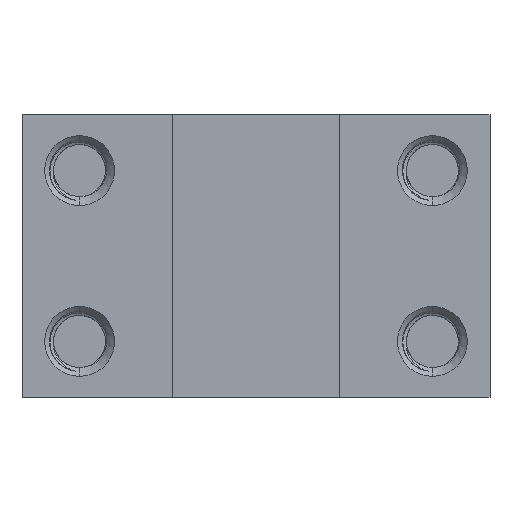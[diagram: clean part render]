
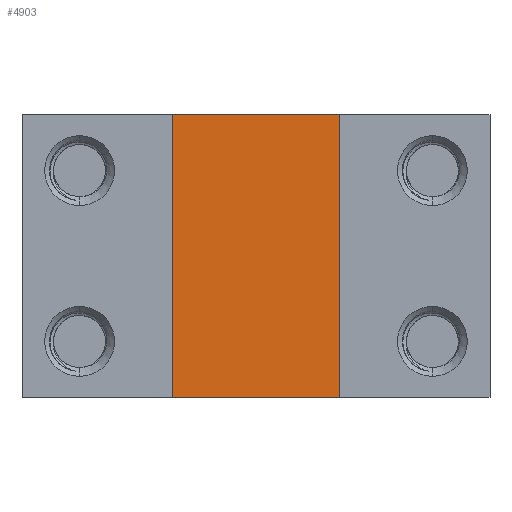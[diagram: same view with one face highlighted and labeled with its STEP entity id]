
A CAD part, left-side view. The second image highlights one B-rep face of the part: STEP entity #4903.
In plain terms, the highlighted planar face has unit normal (-1, 0, 0).
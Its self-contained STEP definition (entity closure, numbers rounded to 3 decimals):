
#631 = LINE ( 'NONE', #21533, #22851 ) ;
#1700 = DIRECTION ( 'NONE',  ( 0., 1., 0. ) ) ;
#1954 = EDGE_CURVE ( 'NONE', #21621, #7975, #22428, .T. ) ;
#2770 = ORIENTED_EDGE ( 'NONE', *, *, #5008, .T. ) ;
#3964 = CARTESIAN_POINT ( 'NONE',  ( -85., 22.5, 38. ) ) ;
#4474 = ORIENTED_EDGE ( 'NONE', *, *, #27816, .F. ) ;
#4775 = ORIENTED_EDGE ( 'NONE', *, *, #1954, .F. ) ;
#4903 = ADVANCED_FACE ( 'NONE', ( #11513 ), #6582, .F. ) ;
#5008 = EDGE_CURVE ( 'NONE', #25342, #7975, #25037, .T. ) ;
#6582 = PLANE ( 'NONE',  #7842 ) ;
#6878 = CARTESIAN_POINT ( 'NONE',  ( -85., 22.5, -38. ) ) ;
#7605 = VECTOR ( 'NONE', #21388, 1000. ) ;
#7842 = AXIS2_PLACEMENT_3D ( 'NONE', #6878, #18291, #11216 ) ;
#7975 = VERTEX_POINT ( 'NONE', #19690 ) ;
#8573 = CARTESIAN_POINT ( 'NONE',  ( -85., 22.5, -38. ) ) ;
#9996 = DIRECTION ( 'NONE',  ( 0., 1., 0. ) ) ;
#11216 = DIRECTION ( 'NONE',  ( 0., 1., 0. ) ) ;
#11513 = FACE_OUTER_BOUND ( 'NONE', #21076, .T. ) ;
#12010 = LINE ( 'NONE', #21096, #7605 ) ;
#14745 = VECTOR ( 'NONE', #1700, 1000. ) ;
#15882 = VECTOR ( 'NONE', #24715, 1000. ) ;
#18291 = DIRECTION ( 'NONE',  ( 1., 0., 0. ) ) ;
#19690 = CARTESIAN_POINT ( 'NONE',  ( -85., 22.5, 38. ) ) ;
#21070 = ORIENTED_EDGE ( 'NONE', *, *, #27908, .T. ) ;
#21076 = EDGE_LOOP ( 'NONE', ( #2770, #4775, #4474, #21070 ) ) ;
#21096 = CARTESIAN_POINT ( 'NONE',  ( -85., -22.5, -38. ) ) ;
#21388 = DIRECTION ( 'NONE',  ( 0., 0., 1. ) ) ;
#21533 = CARTESIAN_POINT ( 'NONE',  ( -85., 22.5, -38. ) ) ;
#21621 = VERTEX_POINT ( 'NONE', #26081 ) ;
#22428 = LINE ( 'NONE', #8573, #15882 ) ;
#22851 = VECTOR ( 'NONE', #9996, 1000. ) ;
#23753 = CARTESIAN_POINT ( 'NONE',  ( -85., -22.5, 38. ) ) ;
#24715 = DIRECTION ( 'NONE',  ( 0., 0., 1. ) ) ;
#25037 = LINE ( 'NONE', #3964, #14745 ) ;
#25342 = VERTEX_POINT ( 'NONE', #23753 ) ;
#26081 = CARTESIAN_POINT ( 'NONE',  ( -85., 22.5, -38. ) ) ;
#27816 = EDGE_CURVE ( 'NONE', #28620, #21621, #631, .T. ) ;
#27908 = EDGE_CURVE ( 'NONE', #28620, #25342, #12010, .T. ) ;
#28620 = VERTEX_POINT ( 'NONE', #30152 ) ;
#30152 = CARTESIAN_POINT ( 'NONE',  ( -85., -22.5, -38. ) ) ;
